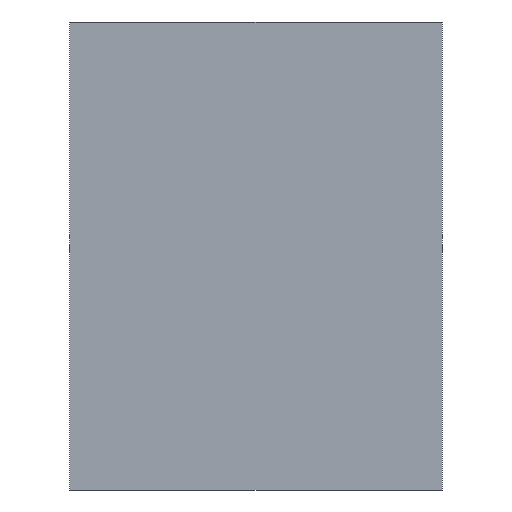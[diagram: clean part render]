
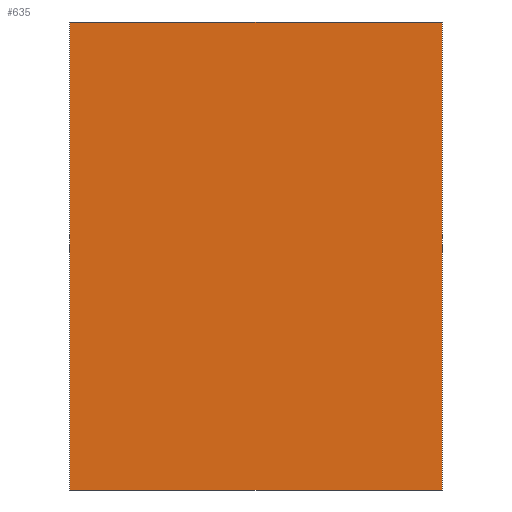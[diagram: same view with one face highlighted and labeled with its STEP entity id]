
A CAD part, front view. The second image highlights one B-rep face of the part: STEP entity #635.
In plain terms, the highlighted planar face has unit normal (0, -1, 0).
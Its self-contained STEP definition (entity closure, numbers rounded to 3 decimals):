
#635=ADVANCED_FACE('',(#906),#905,.T.);
#905=PLANE('',#3144);
#906=FACE_OUTER_BOUND('',#3145,.T.);
#3141=CARTESIAN_POINT('',(1085.,0.,-1360.));
#3142=DIRECTION('',(0.,-1.,0.));
#3143=DIRECTION('',(0.,0.,1.));
#3144=AXIS2_PLACEMENT_3D('',#3141,#3142,#3143);
#3145=EDGE_LOOP('',(#4272,#4273,#4274,#4275));
#4272=ORIENTED_EDGE('',*,*,#5381,.F.);
#4273=ORIENTED_EDGE('',*,*,#5379,.F.);
#4274=ORIENTED_EDGE('',*,*,#5373,.F.);
#4275=ORIENTED_EDGE('',*,*,#5376,.F.);
#5373=EDGE_CURVE('',#5944,#5929,#5951,.T.);
#5376=EDGE_CURVE('',#5964,#5944,#5971,.T.);
#5379=EDGE_CURVE('',#5929,#5977,#5991,.T.);
#5381=EDGE_CURVE('',#5977,#5964,#6003,.T.);
#5929=VERTEX_POINT('',#9654);
#5944=VERTEX_POINT('',#9663);
#5951=LINE('',#9667,#9668);
#5964=VERTEX_POINT('',#9674);
#5971=LINE('',#9678,#9679);
#5977=VERTEX_POINT('',#9681);
#5991=LINE('',#9689,#9690);
#6003=LINE('',#9695,#9696);
#9654=CARTESIAN_POINT('',(1075.,0.,0.));
#9663=CARTESIAN_POINT('',(0.,0.,0.));
#9667=CARTESIAN_POINT('',(0.,0.,0.));
#9668=VECTOR('',#9669,1075.);
#9669=DIRECTION('',(1.,0.,0.));
#9674=CARTESIAN_POINT('',(0.,0.,-1350.));
#9678=CARTESIAN_POINT('',(0.,0.,-1350.));
#9679=VECTOR('',#9680,1350.);
#9680=DIRECTION('',(0.,0.,1.));
#9681=CARTESIAN_POINT('',(1075.,0.,-1350.));
#9689=CARTESIAN_POINT('',(1075.,0.,0.));
#9690=VECTOR('',#9691,1350.);
#9691=DIRECTION('',(0.,0.,-1.));
#9695=CARTESIAN_POINT('',(1075.,0.,-1350.));
#9696=VECTOR('',#9697,1075.);
#9697=DIRECTION('',(-1.,0.,0.));
